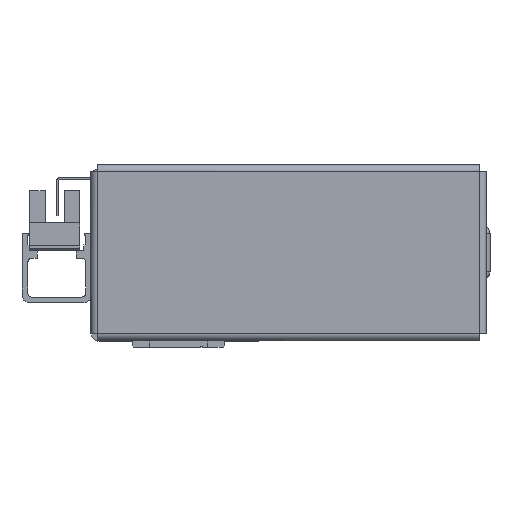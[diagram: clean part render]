
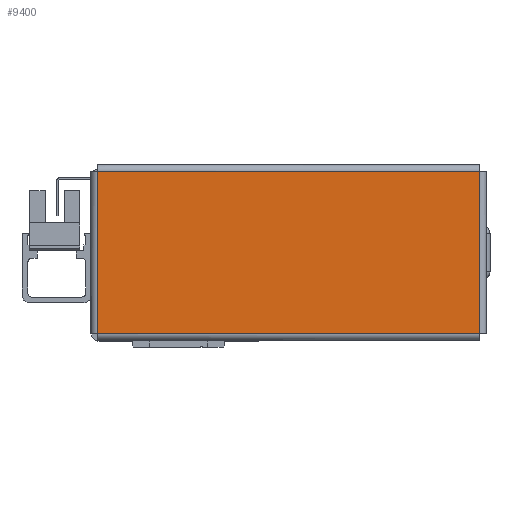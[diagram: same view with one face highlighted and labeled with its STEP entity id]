
A CAD part, left-side view. The second image highlights one B-rep face of the part: STEP entity #9400.
In plain terms, the highlighted planar face has unit normal (-1, 0, 0) as drawn and (0, 0, -1) by its records, which use the part's own axes.
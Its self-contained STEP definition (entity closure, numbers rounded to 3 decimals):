
#2536 = VERTEX_POINT ( 'NONE', #10529 ) ;
#3757 = LINE ( 'NONE', #13471, #24095 ) ;
#3845 = VECTOR ( 'NONE', #7847, 1000. ) ;
#4367 = EDGE_CURVE ( 'NONE', #2536, #8723, #12547, .T. ) ;
#6197 = CARTESIAN_POINT ( 'NONE',  ( 49.513, -21.013, -1. ) ) ;
#6337 = VECTOR ( 'NONE', #33349, 1000. ) ;
#6701 = LINE ( 'NONE', #13410, #26992 ) ;
#6905 = CARTESIAN_POINT ( 'NONE',  ( -49.543, 21.013, -1. ) ) ;
#7847 = DIRECTION ( 'NONE',  ( 0., 1., 0. ) ) ;
#8255 = PLANE ( 'NONE',  #25434 ) ;
#8723 = VERTEX_POINT ( 'NONE', #21278 ) ;
#9289 = FACE_OUTER_BOUND ( 'NONE', #9463, .T. ) ;
#9400 = ADVANCED_FACE ( 'NONE', ( #9289 ), #8255, .F. ) ;
#9463 = EDGE_LOOP ( 'NONE', ( #24860, #32769, #12424, #17432 ) ) ;
#10529 = CARTESIAN_POINT ( 'NONE',  ( -49.513, -21.013, -1. ) ) ;
#12424 = ORIENTED_EDGE ( 'NONE', *, *, #28131, .T. ) ;
#12547 = LINE ( 'NONE', #34282, #3845 ) ;
#13410 = CARTESIAN_POINT ( 'NONE',  ( 49.513, 21.043, -1. ) ) ;
#13471 = CARTESIAN_POINT ( 'NONE',  ( 49.543, -21.013, -1. ) ) ;
#13598 = CARTESIAN_POINT ( 'NONE',  ( 0., 0., -1. ) ) ;
#16268 = DIRECTION ( 'NONE',  ( 1., 0., 0. ) ) ;
#17432 = ORIENTED_EDGE ( 'NONE', *, *, #17488, .T. ) ;
#17488 = EDGE_CURVE ( 'NONE', #20900, #2536, #3757, .T. ) ;
#20900 = VERTEX_POINT ( 'NONE', #6197 ) ;
#21278 = CARTESIAN_POINT ( 'NONE',  ( -49.513, 21.013, -1. ) ) ;
#21466 = DIRECTION ( 'NONE',  ( -1., 0., 0. ) ) ;
#22109 = CARTESIAN_POINT ( 'NONE',  ( 49.513, 21.013, -1. ) ) ;
#24095 = VECTOR ( 'NONE', #21466, 1000. ) ;
#24860 = ORIENTED_EDGE ( 'NONE', *, *, #4367, .T. ) ;
#25434 = AXIS2_PLACEMENT_3D ( 'NONE', #13598, #32158, #16268 ) ;
#26712 = DIRECTION ( 'NONE',  ( 0., -1., 0. ) ) ;
#26992 = VECTOR ( 'NONE', #26712, 1000. ) ;
#27451 = LINE ( 'NONE', #6905, #6337 ) ;
#28131 = EDGE_CURVE ( 'NONE', #29595, #20900, #6701, .T. ) ;
#29595 = VERTEX_POINT ( 'NONE', #22109 ) ;
#32158 = DIRECTION ( 'NONE',  ( 0., 0., 1. ) ) ;
#32769 = ORIENTED_EDGE ( 'NONE', *, *, #33480, .T. ) ;
#33349 = DIRECTION ( 'NONE',  ( 1., 0., 0. ) ) ;
#33480 = EDGE_CURVE ( 'NONE', #8723, #29595, #27451, .T. ) ;
#34282 = CARTESIAN_POINT ( 'NONE',  ( -49.513, -21.043, -1. ) ) ;
